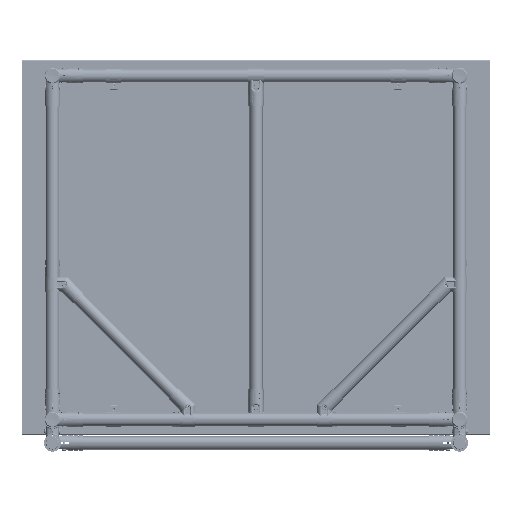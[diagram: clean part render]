
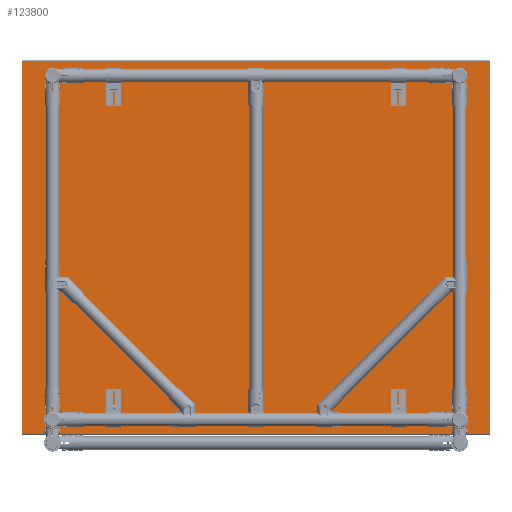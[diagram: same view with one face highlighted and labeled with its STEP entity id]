
A CAD part, front view. The second image highlights one B-rep face of the part: STEP entity #123800.
In plain terms, the highlighted planar face has unit normal (0, -1, 0) as drawn and (0, 0, -1) by its records, which use the part's own axes.
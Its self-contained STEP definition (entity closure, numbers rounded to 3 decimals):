
#4131 = CARTESIAN_POINT ( 'NONE',  ( 499.2, 0., 0. ) ) ;
#5473 = PLANE ( 'NONE',  #40042 ) ;
#9753 = CARTESIAN_POINT ( 'NONE',  ( 0., 399.2, 0. ) ) ;
#12003 = VECTOR ( 'NONE', #97408, 1000. ) ;
#22639 = CARTESIAN_POINT ( 'NONE',  ( 499.2, -399.2, 0. ) ) ;
#28308 = EDGE_CURVE ( 'NONE', #96542, #66527, #114597, .T. ) ;
#28849 = VECTOR ( 'NONE', #56040, 1000. ) ;
#29380 = CARTESIAN_POINT ( 'NONE',  ( 0., 0., 0. ) ) ;
#32686 = DIRECTION ( 'NONE',  ( -1., 0., 0. ) ) ;
#35516 = CARTESIAN_POINT ( 'NONE',  ( -499.2, -399.2, 0. ) ) ;
#37298 = CARTESIAN_POINT ( 'NONE',  ( -499.2, 0., 0. ) ) ;
#38309 = EDGE_LOOP ( 'NONE', ( #84395, #92493, #101569, #43690 ) ) ;
#40042 = AXIS2_PLACEMENT_3D ( 'NONE', #29380, #135647, #52514 ) ;
#43690 = ORIENTED_EDGE ( 'NONE', *, *, #100734, .T. ) ;
#44971 = CARTESIAN_POINT ( 'NONE',  ( 499.2, 399.2, 0. ) ) ;
#52514 = DIRECTION ( 'NONE',  ( 1., 0., 0. ) ) ;
#56040 = DIRECTION ( 'NONE',  ( 1., 0., 0. ) ) ;
#57447 = VECTOR ( 'NONE', #32686, 1000. ) ;
#66025 = VECTOR ( 'NONE', #129754, 1000. ) ;
#66527 = VERTEX_POINT ( 'NONE', #44971 ) ;
#67981 = EDGE_CURVE ( 'NONE', #98852, #79619, #138206, .T. ) ;
#79619 = VERTEX_POINT ( 'NONE', #35516 ) ;
#82048 = LINE ( 'NONE', #37298, #66025 ) ;
#84395 = ORIENTED_EDGE ( 'NONE', *, *, #28308, .T. ) ;
#92493 = ORIENTED_EDGE ( 'NONE', *, *, #135952, .T. ) ;
#96542 = VERTEX_POINT ( 'NONE', #125874 ) ;
#97408 = DIRECTION ( 'NONE',  ( 0., -1., 0. ) ) ;
#98852 = VERTEX_POINT ( 'NONE', #22639 ) ;
#100734 = EDGE_CURVE ( 'NONE', #79619, #96542, #82048, .T. ) ;
#101569 = ORIENTED_EDGE ( 'NONE', *, *, #67981, .T. ) ;
#109737 = LINE ( 'NONE', #4131, #12003 ) ;
#114597 = LINE ( 'NONE', #9753, #28849 ) ;
#123800 = ADVANCED_FACE ( 'NONE', ( #146448 ), #5473, .F. ) ;
#125874 = CARTESIAN_POINT ( 'NONE',  ( -499.2, 399.2, 0. ) ) ;
#129754 = DIRECTION ( 'NONE',  ( 0., 1., 0. ) ) ;
#135647 = DIRECTION ( 'NONE',  ( 0., 0., 1. ) ) ;
#135952 = EDGE_CURVE ( 'NONE', #66527, #98852, #109737, .T. ) ;
#138206 = LINE ( 'NONE', #139724, #57447 ) ;
#139724 = CARTESIAN_POINT ( 'NONE',  ( 0., -399.2, 0. ) ) ;
#146448 = FACE_OUTER_BOUND ( 'NONE', #38309, .T. ) ;
